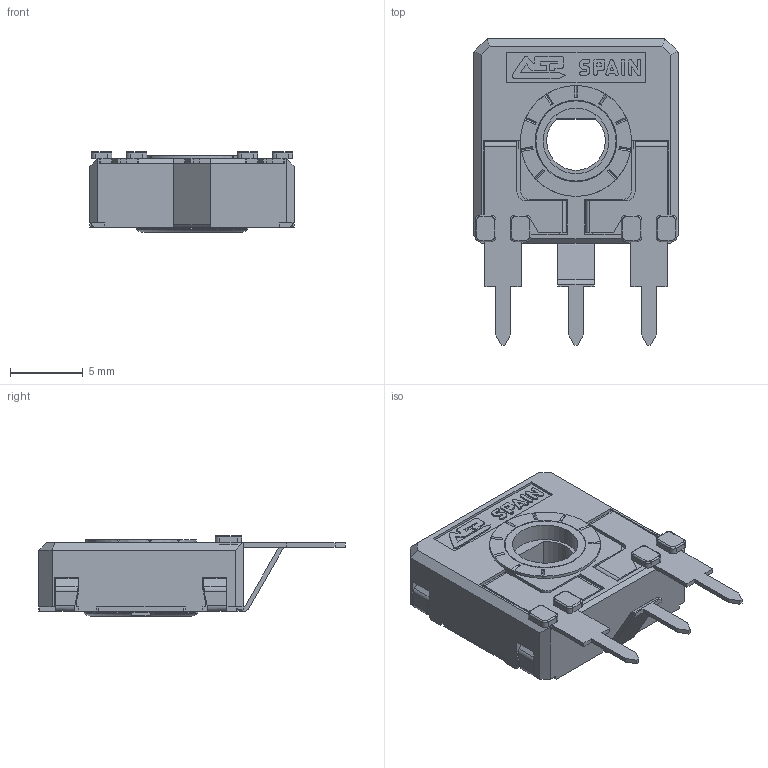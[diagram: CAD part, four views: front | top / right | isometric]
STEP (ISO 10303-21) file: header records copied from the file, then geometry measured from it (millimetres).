
FILE_DESCRIPTION(/* description */ (''),/* implementation_level */ '2;1');
FILE_NAME(/* name */ 'C:\Users\CEM\Desktop\ENVIAR\TRANSICION 3D CATALOGOS\RS14FH0 RT-RO.stp',/* time_stamp */ '2025-12-10T10:40:11+01:00',/* author */ ('CEM'),/* organization */ (''),/* preprocessor_version */ 'ST-DEVELOPER v16.13',/* originating_system */ 'Autodesk Inventor 2018',/* authorisation */ '');
FILE_SCHEMA (('AUTOMOTIVE_DESIGN { 1 0 10303 214 3 1 1 }'));
Length unit declared in the file: millimetre
Products named in the file (1): CARCASA CA14 PGA
Bounding box: 14 x 21 x 5.55 mm (x, y, z)
Volume: 521.2 mm3; surface area: 1447 mm2
Topology: 1 solids, 1 shells, 658 faces, 1848 edges, 1187 vertices
Faces by surface type: plane 487, cylinder 134, torus 23, bspline 8, cone 6
Full cylindrical faces by diameter (mm): 4.5 x1, 5.5 x1, 5.6 x1, 5.752 x1, 6.8 x1, 7.6 x1
Entity records: 21251 total; most frequent: CARTESIAN_POINT 3886, ORIENTED_EDGE 3666, DIRECTION 3459, EDGE_CURVE 1833, LINE 1453, VECTOR 1453, VERTEX_POINT 1182, AXIS2_PLACEMENT_3D 1003
